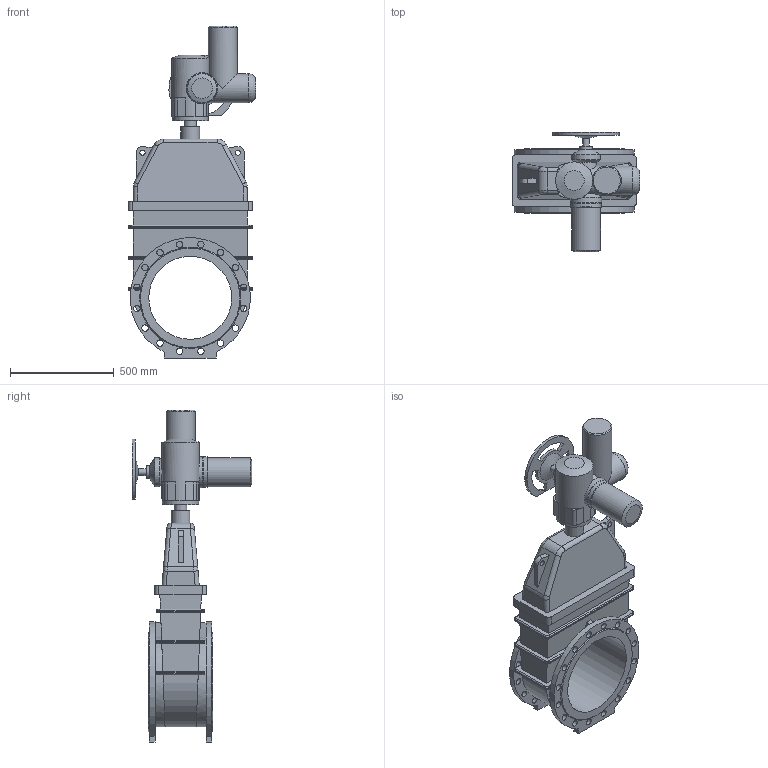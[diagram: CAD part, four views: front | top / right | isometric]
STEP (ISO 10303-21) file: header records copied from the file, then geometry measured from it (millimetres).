
FILE_DESCRIPTION(('STEP AP203'), '1');
FILE_NAME('青溻桄赅 47GVA DN400 PN16+MT903.A30', '', ('UNSPECIFIED'), ('UNSPECIFIED'), 'ASCON STEP Converter 1.6', 'ASCON Math Kernel', '');
FILE_SCHEMA(('CONFIG_CONTROL_DESIGN'));
Length unit declared in the file: millimetre
Bounding box: 617 x 578 x 1601 mm (x, y, z)
Volume: 97287353 mm3; surface area: 3362169.7 mm2
Topology: 2 solids, 2 shells, 346 faces, 868 edges, 553 vertices
Faces by surface type: cylinder 155, plane 147, bspline 32, cone 11, torus 1
Full cylindrical faces by diameter (mm): 14 x4, 18 x4, 25 x2, 31 x32, 32 x1, 34 x1, 60 x2, 90 x1, 100 x3, 140 x4, 147 x1, 151 x1, 175 x1, 400 x1
Entity records: 17002 total; most frequent: CARTESIAN_POINT 6264, ORIENTED_EDGE 1598, DIRECTION 1553, EDGE_CURVE 799, AXIS2_PLACEMENT_3D 578, VERTEX_POINT 553, EDGE_LOOP 526, LINE 397
